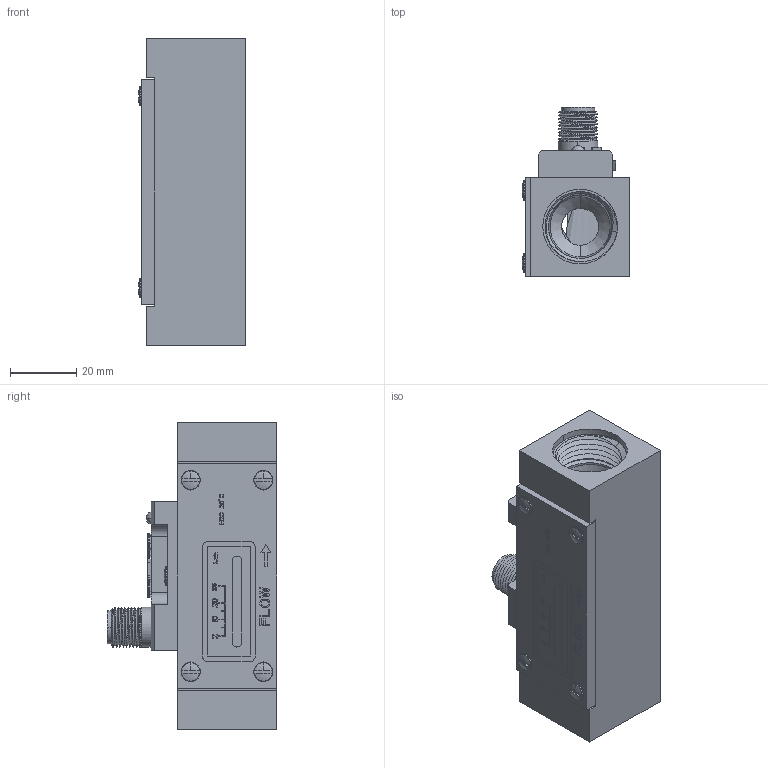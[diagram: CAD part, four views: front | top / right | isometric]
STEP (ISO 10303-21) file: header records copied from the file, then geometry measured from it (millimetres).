
FILE_DESCRIPTION(( '' ), '1' );
FILE_NAME('QSKJ_G1-2.step', '2021-09-01T02:04:44', ( '' ), ( '' ), '', '', '' );
FILE_SCHEMA (( 'AUTOMOTIVE_DESIGN' ));
Length unit declared in the file: millimetre
Products named in the file (9): QSKJ display 01; QSKJ part 03; QSKJ G1-2; QSKJ part 04; QSKJ part 02; QSKJ display 02; QSKJ part 05; QSKJ part 06; QSKJ part 01
Assembly tree (12 placements, depth 4):
  QSKJ G1-2
    QSKJ part 04
      QSKJ display 02
        QSKJ display 01
        QSKJ part 06
      QSKJ part 01
        QSKJ part 03
        QSKJ part 02  x4
      QSKJ part 05
      QSKJ part 02
Bounding box: 32.49 x 51.2 x 93 mm (x, y, z)
Volume: 15990.4 mm3; surface area: 31304 mm2
Topology: 8 solids, 14 shells, 2005 faces, 5666 edges, 3773 vertices
Faces by surface type: plane 1670, cylinder 163, bspline 96, cone 40, torus 20, sphere 16
Entity records: 66949 total; most frequent: CARTESIAN_POINT 18783, ORIENTED_EDGE 10436, DIRECTION 8925, EDGE_CURVE 5228, LINE 4703, VECTOR 4703, VERTEX_POINT 3483, AXIS2_PLACEMENT_3D 2111
